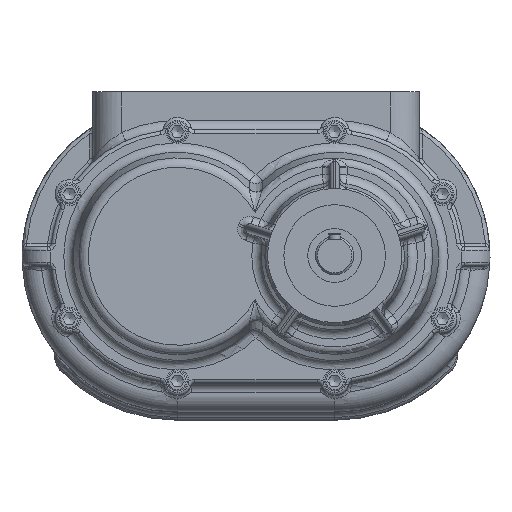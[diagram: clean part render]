
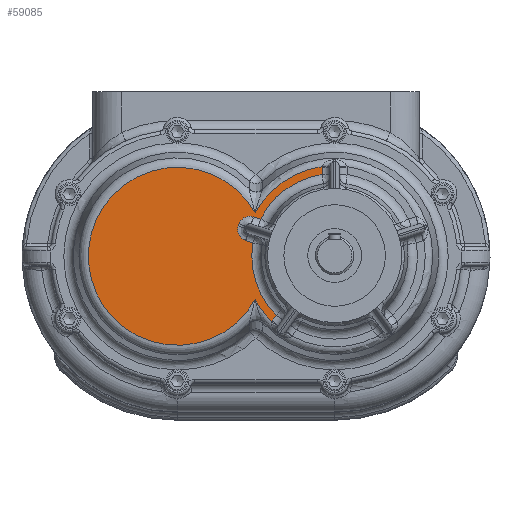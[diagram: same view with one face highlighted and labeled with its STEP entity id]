
A CAD part, top view. The second image highlights one B-rep face of the part: STEP entity #59085.
In plain terms, the highlighted planar face has unit normal (0, 0, 1).
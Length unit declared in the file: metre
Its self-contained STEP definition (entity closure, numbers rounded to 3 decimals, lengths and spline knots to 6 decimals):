
#56861=CARTESIAN_POINT('',(-0.000958,-0.045196,0.08));
#56862=VERTEX_POINT('',#56861);
#56863=CARTESIAN_POINT('',(0.016489,-0.068067,0.08));
#56864=VERTEX_POINT('',#56863);
#56865=CARTESIAN_POINT('',(0.082,0.,0.08));
#56866=DIRECTION('',(0.0,0.0,1.0));
#56867=DIRECTION('',(1.0,0.0,0.0));
#56868=AXIS2_PLACEMENT_3D('',#56865,#56866,#56867);
#56869=CIRCLE('',#56868,0.094471);
#56870=EDGE_CURVE('',#56862,#56864,#56869,.T.);
#56944=CARTESIAN_POINT('',(-0.000958,0.045196,0.08));
#56945=VERTEX_POINT('',#56944);
#57007=CARTESIAN_POINT('',(0.069009,0.093573,0.08));
#57008=VERTEX_POINT('',#57007);
#57009=CARTESIAN_POINT('',(0.082,0.,0.08));
#57010=DIRECTION('',(0.0,0.0,1.0));
#57011=DIRECTION('',(1.0,0.0,0.0));
#57012=AXIS2_PLACEMENT_3D('',#57009,#57010,#57011);
#57013=CIRCLE('',#57012,0.094471);
#57014=EDGE_CURVE('',#57008,#56945,#57013,.T.);
#58862=CARTESIAN_POINT('',(0.021282,-0.061455,0.08));
#58863=VERTEX_POINT('',#58862);
#58864=CARTESIAN_POINT('',(-0.003244,0.014029,0.08));
#58865=VERTEX_POINT('',#58864);
#58866=CARTESIAN_POINT('',(0.082,0.,0.08));
#58867=DIRECTION('',(0.0,0.0,1.0));
#58868=DIRECTION('',(1.0,0.0,0.0));
#58869=AXIS2_PLACEMENT_3D('',#58866,#58867,#58868);
#58870=CIRCLE('',#58869,0.086391);
#58871=EDGE_CURVE('',#58863,#58865,#58870,.F.);
#58969=CARTESIAN_POINT('',(0.192,0.,0.08));
#58970=DIRECTION('',(0.0,0.0,1.0));
#58971=DIRECTION('',(1.0,0.0,0.0));
#58972=AXIS2_PLACEMENT_3D('',#58969,#58970,#58971);
#58973=PLANE('',#58972);
#58974=CARTESIAN_POINT('',(-0.018545,0.031618,0.08));
#58975=VERTEX_POINT('',#58974);
#58976=CARTESIAN_POINT('',(-0.017927,0.03352,0.08));
#58977=VERTEX_POINT('',#58976);
#58978=CARTESIAN_POINT('',(-0.017927,0.03352,0.08));
#58979=DIRECTION('',(-0.309,-0.951,0.0));
#58980=VECTOR('',#58979,0.002);
#58981=LINE('',#58978,#58980);
#58982=EDGE_CURVE('',#58975,#58977,#58981,.F.);
#58983=ORIENTED_EDGE('',*,*,#58982,.T.);
#58984=CARTESIAN_POINT('',(-0.002979,0.041271,0.08));
#58985=VERTEX_POINT('',#58984);
#58986=CARTESIAN_POINT('',(-0.00623,0.029719,0.08));
#58987=DIRECTION('',(0.0,0.0,1.0));
#58988=DIRECTION('',(0.951,-0.309,0.0));
#58989=AXIS2_PLACEMENT_3D('',#58986,#58987,#58988);
#58990=ELLIPSE('',#58989,0.012299,0.012);
#58991=EDGE_CURVE('',#58977,#58985,#58990,.F.);
#58992=ORIENTED_EDGE('',*,*,#58991,.T.);
#58993=CARTESIAN_POINT('',(-0.002522,0.041132,0.08));
#58994=VERTEX_POINT('',#58993);
#58995=CARTESIAN_POINT('',(-0.00623,0.029719,0.08));
#58996=DIRECTION('',(0.0,0.0,1.0));
#58997=DIRECTION('',(0.951,-0.309,0.0));
#58998=AXIS2_PLACEMENT_3D('',#58995,#58996,#58997);
#58999=ELLIPSE('',#58998,0.012299,0.012);
#59000=EDGE_CURVE('',#58985,#58994,#58999,.F.);
#59001=ORIENTED_EDGE('',*,*,#59000,.T.);
#59002=CARTESIAN_POINT('',(0.00479,0.038756,0.08));
#59003=VERTEX_POINT('',#59002);
#59004=CARTESIAN_POINT('',(-0.002522,0.041132,0.08));
#59005=DIRECTION('',(0.951,-0.309,0.0));
#59006=VECTOR('',#59005,0.007688);
#59007=LINE('',#59004,#59006);
#59008=EDGE_CURVE('',#58994,#59003,#59007,.T.);
#59009=ORIENTED_EDGE('',*,*,#59008,.T.);
#59010=CARTESIAN_POINT('',(0.069,0.085407,0.08));
#59011=VERTEX_POINT('',#59010);
#59012=CARTESIAN_POINT('',(0.082,0.,0.08));
#59013=DIRECTION('',(0.0,0.0,1.0));
#59014=DIRECTION('',(1.0,0.0,0.0));
#59015=AXIS2_PLACEMENT_3D('',#59012,#59013,#59014);
#59016=CIRCLE('',#59015,0.086391);
#59017=EDGE_CURVE('',#59003,#59011,#59016,.F.);
#59018=ORIENTED_EDGE('',*,*,#59017,.T.);
#59019=CARTESIAN_POINT('',(0.069,0.093095,0.08));
#59020=VERTEX_POINT('',#59019);
#59021=CARTESIAN_POINT('',(0.069,0.093095,0.08));
#59022=DIRECTION('',(0.0,-1.0,0.0));
#59023=VECTOR('',#59022,0.007688);
#59024=LINE('',#59021,#59023);
#59025=EDGE_CURVE('',#59011,#59020,#59024,.F.);
#59026=ORIENTED_EDGE('',*,*,#59025,.T.);
#59027=CARTESIAN_POINT('',(0.081,0.093095,0.08));
#59028=DIRECTION('',(0.0,0.0,1.0));
#59029=DIRECTION('',(0.0,1.0,0.0));
#59030=AXIS2_PLACEMENT_3D('',#59027,#59028,#59029);
#59031=ELLIPSE('',#59030,0.012299,0.012);
#59032=EDGE_CURVE('',#59020,#57008,#59031,.F.);
#59033=ORIENTED_EDGE('',*,*,#59032,.T.);
#59034=ORIENTED_EDGE('',*,*,#57014,.T.);
#59035=CARTESIAN_POINT('',(-0.082,0.,0.08));
#59036=DIRECTION('',(0.0,0.0,1.0));
#59037=DIRECTION('',(1.0,0.0,0.0));
#59038=AXIS2_PLACEMENT_3D('',#59035,#59036,#59037);
#59039=CIRCLE('',#59038,0.092793);
#59040=EDGE_CURVE('',#56945,#56862,#59039,.T.);
#59041=ORIENTED_EDGE('',*,*,#59040,.T.);
#59042=ORIENTED_EDGE('',*,*,#56870,.T.);
#59043=CARTESIAN_POINT('',(0.016763,-0.067674,0.08));
#59044=VERTEX_POINT('',#59043);
#59045=CARTESIAN_POINT('',(0.026471,-0.074728,0.08));
#59046=DIRECTION('',(0.0,0.0,1.0));
#59047=DIRECTION('',(0.588,0.809,0.0));
#59048=AXIS2_PLACEMENT_3D('',#59045,#59046,#59047);
#59049=ELLIPSE('',#59048,0.012299,0.012);
#59050=EDGE_CURVE('',#56864,#59044,#59049,.F.);
#59051=ORIENTED_EDGE('',*,*,#59050,.T.);
#59052=CARTESIAN_POINT('',(0.016763,-0.067674,0.08));
#59053=DIRECTION('',(0.588,0.809,0.0));
#59054=VECTOR('',#59053,0.007688);
#59055=LINE('',#59052,#59054);
#59056=EDGE_CURVE('',#59044,#58863,#59055,.T.);
#59057=ORIENTED_EDGE('',*,*,#59056,.T.);
#59058=ORIENTED_EDGE('',*,*,#58871,.T.);
#59059=CARTESIAN_POINT('',(-0.010556,0.016404,0.08));
#59060=VERTEX_POINT('',#59059);
#59061=CARTESIAN_POINT('',(-0.010556,0.016404,0.08));
#59062=DIRECTION('',(0.951,-0.309,0.0));
#59063=VECTOR('',#59062,0.007688);
#59064=LINE('',#59061,#59063);
#59065=EDGE_CURVE('',#58865,#59060,#59064,.F.);
#59066=ORIENTED_EDGE('',*,*,#59065,.T.);
#59067=CARTESIAN_POINT('',(-0.011008,0.016561,0.08));
#59068=VERTEX_POINT('',#59067);
#59069=CARTESIAN_POINT('',(-0.006848,0.027817,0.08));
#59070=DIRECTION('',(0.0,0.0,1.0));
#59071=DIRECTION('',(-0.951,0.309,0.0));
#59072=AXIS2_PLACEMENT_3D('',#59069,#59070,#59071);
#59073=ELLIPSE('',#59072,0.012299,0.012);
#59074=EDGE_CURVE('',#59060,#59068,#59073,.F.);
#59075=ORIENTED_EDGE('',*,*,#59074,.T.);
#59076=CARTESIAN_POINT('',(-0.006848,0.027817,0.08));
#59077=DIRECTION('',(0.0,0.0,1.0));
#59078=DIRECTION('',(-0.951,0.309,0.0));
#59079=AXIS2_PLACEMENT_3D('',#59076,#59077,#59078);
#59080=ELLIPSE('',#59079,0.012299,0.012);
#59081=EDGE_CURVE('',#59068,#58975,#59080,.F.);
#59082=ORIENTED_EDGE('',*,*,#59081,.T.);
#59083=EDGE_LOOP('',(#58983,#58992,#59001,#59009,#59018,#59026,#59033,#59034,#59041,#59042,#59051,#59057,#59058,#59066,#59075,#59082));
#59084=FACE_OUTER_BOUND('',#59083,.T.);
#59085=ADVANCED_FACE('',(#59084),#58973,.T.);
